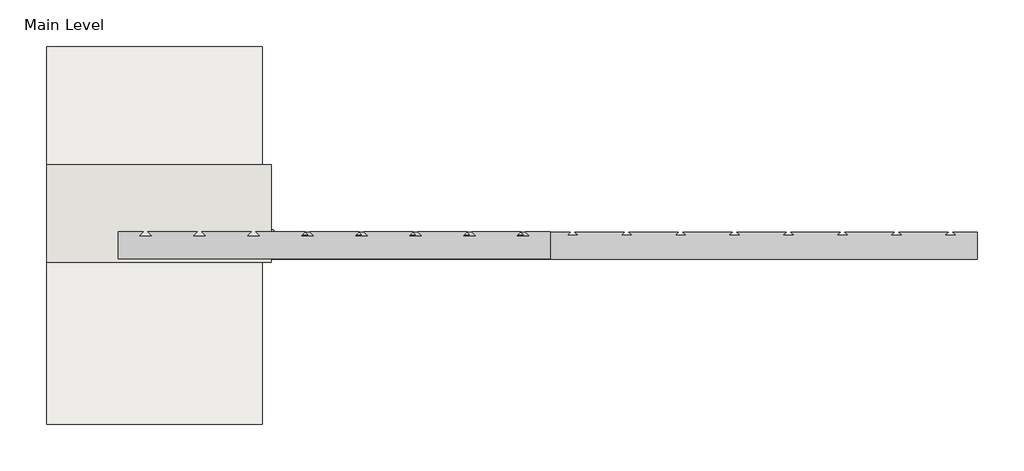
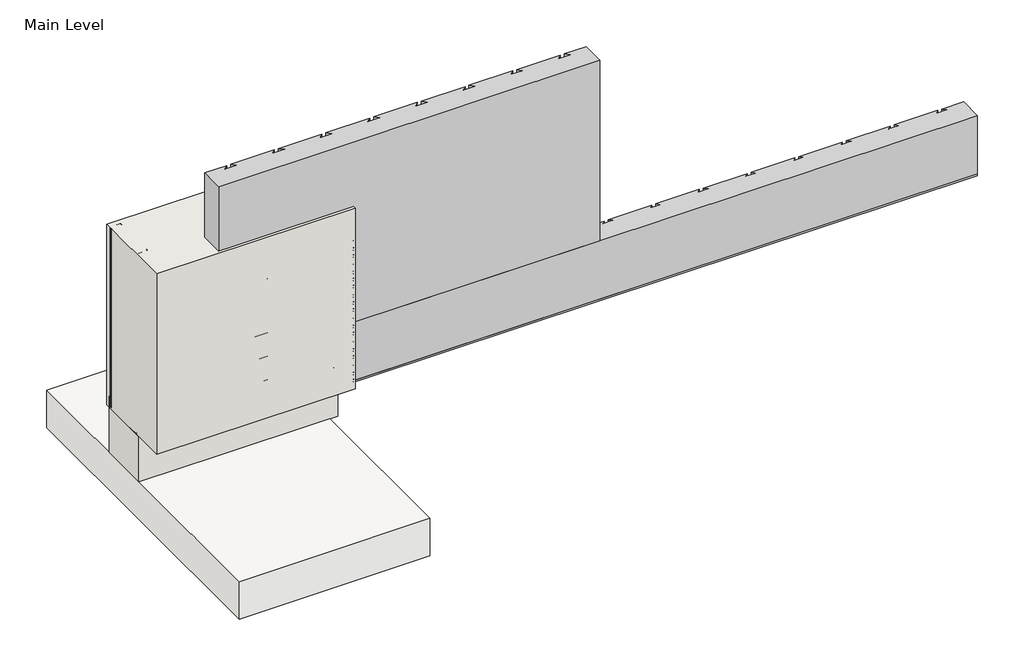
# One storey, incomplete: 20 proxies, 2 walls, 1 slab.
"""IFC4 building model written with IfcOpenShell, lengths in millimetres."""

from ifc_helpers import new_model, si_unit, frame, origin, origin_with_axes, place, context, project, spatial, polyline, outline, extrude, transform, mapped, element, save
from components import generic_models_31547c53, generic_models_0bbfdc8f, generic_models_1e1ad44f, generic_models_7dd17a53, generic_models_441de798, generic_models_9d0e7a2a, generic_models_a6b5edb7, generic_models_03ec6e0e, proxy_998bcb27, proxy_b027fc18, wood_blocking_45ac4bf3

model = new_model("IFC4")

# Units and contexts
model_context = context("Model", 3, world=origin())
ifc_project = project(units=[si_unit("LENGTHUNIT", "METRE", prefix="MILLI")], contexts=[model_context])

# Site, building, storey
site = spatial("IfcSite", under=ifc_project)
building = spatial("IfcBuilding", under=site)
storey = spatial("IfcBuildingStorey", under=building, Name="Main Level", Elevation=0.0)

# Proxies
placement = place(None, origin())
generic_models_shape = generic_models_31547c53(model_context)
element("IfcBuildingElementProxy", 1, Name="Durabond Generic Model Sealant Vent : Durabond Generic Model Sealant Vent", ObjectType="Durabond Generic Model Sealant Vent : Durabond Generic Model Sealant Vent", at=placement, inside=storey, context=model_context, shape_type="MappedRepresentation", body=[
    mapped(generic_models_shape, transform((26865.4101773, 546.8432813, 8.5594788), x_axis=(1.0, 0.0, 0.0), y_axis=(0.0, 0.08715574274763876, -0.9961946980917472), z_axis=(0.0, 0.9961946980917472, 0.08715574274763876))),
])
generic_models_2_shape = generic_models_0bbfdc8f(model_context)
generic_models_3_shape = generic_models_1e1ad44f(model_context)
generic_models_4_shape = generic_models_7dd17a53(model_context)
generic_models_5_shape = generic_models_441de798(model_context)
element("IfcBuildingElementProxy", 2, Name="CRAi Generic Model Mesh Piece Face Based : CRAi Generic Model Mesh Piece Face Based", ObjectType="CRAi Generic Model Mesh Piece Face Based : CRAi Generic Model Mesh Piece Face Based", at=placement, inside=storey, context=model_context, shape_type="MappedRepresentation", body=[
    mapped(generic_models_2_shape, transform((26933.6726773, 541.9066297, 261.6963215), x_axis=(-1.0, 0.0, 0.0), y_axis=(0.0, 0.0, -1.0), z_axis=(0.0, -1.0, 0.0))),
    mapped(generic_models_3_shape, transform((26933.6726773, 541.9066297, 261.6963215), x_axis=(-1.0, 0.0, 0.0), y_axis=(0.0, 0.0, -1.0), z_axis=(0.0, -1.0, 0.0))),
    mapped(generic_models_4_shape, transform((26933.6726773, 541.9066297, 261.6963215), x_axis=(-1.0, 0.0, 0.0), y_axis=(0.0, 0.0, -1.0), z_axis=(0.0, -1.0, 0.0))),
    mapped(generic_models_5_shape, transform((26933.6726773, 541.9066297, 261.6963215), x_axis=(-1.0, 0.0, 0.0), y_axis=(0.0, 0.0, -1.0), z_axis=(0.0, -1.0, 0.0))),
])
generic_models_6_shape = generic_models_9d0e7a2a(model_context)
element("IfcBuildingElementProxy", 3, Name="CRAi Generic Model Metal Stud Array : CRAi Generic Model Metal Stud Array", ObjectType="CRAi Generic Model Metal Stud Array : CRAi Generic Model Metal Stud Array", at=placement, inside=storey, context=model_context, shape_type="MappedRepresentation", body=[
    mapped(generic_models_6_shape, transform((26666.9726773, 726.0566297, 6.35), x_axis=(-1.0, 0.0, 0.0), y_axis=(0.0, -1.0, 0.0), z_axis=(0.0, 0.0, 1.0))),
])
generic_models_7_shape = generic_models_a6b5edb7(model_context)
element("IfcBuildingElementProxy", 4, Name="Durabond Generic Model Insulation Adhesive Flat : Durabond Generic Model Insulation Adhesive Flat", ObjectType="Durabond Generic Model Insulation Adhesive Flat : Durabond Generic Model Insulation Adhesive Flat", at=placement, inside=storey, context=model_context, shape_type="MappedRepresentation", body=[
    mapped(generic_models_7_shape, transform((26705.0726773, 627.6316297, 88.9), x_axis=(1.0, 0.0, 0.0), y_axis=(0.0, 1.0, 0.0), z_axis=(0.0, 0.0, 1.0))),
])
element("IfcBuildingElementProxy", 5, Name="Durabond Generic Model Insulation Adhesive Flat : Durabond Generic Model Insulation Adhesive Flat", ObjectType="Durabond Generic Model Insulation Adhesive Flat : Durabond Generic Model Insulation Adhesive Flat", at=placement, inside=storey, context=model_context, shape_type="MappedRepresentation", body=[
    mapped(generic_models_7_shape, transform((26781.2726773, 627.6316297, 88.9), x_axis=(1.0, 0.0, 0.0), y_axis=(0.0, 1.0, 0.0), z_axis=(0.0, 0.0, 1.0))),
])
element("IfcBuildingElementProxy", 6, Name="Durabond Generic Model Insulation Adhesive Flat : Durabond Generic Model Insulation Adhesive Flat", ObjectType="Durabond Generic Model Insulation Adhesive Flat : Durabond Generic Model Insulation Adhesive Flat", at=placement, inside=storey, context=model_context, shape_type="MappedRepresentation", body=[
    mapped(generic_models_7_shape, transform((26857.4726773, 627.6316297, 88.9), x_axis=(1.0, 0.0, 0.0), y_axis=(0.0, 1.0, 0.0), z_axis=(0.0, 0.0, 1.0))),
])
element("IfcBuildingElementProxy", 7, Name="Durabond Generic Model Insulation Adhesive Flat : Durabond Generic Model Insulation Adhesive Flat", ObjectType="Durabond Generic Model Insulation Adhesive Flat : Durabond Generic Model Insulation Adhesive Flat", at=placement, inside=storey, context=model_context, shape_type="MappedRepresentation", body=[
    mapped(generic_models_7_shape, transform((26933.6726773, 627.6316297, 88.9), x_axis=(1.0, 0.0, 0.0), y_axis=(0.0, 1.0, 0.0), z_axis=(0.0, 0.0, 1.0))),
])
element("IfcBuildingElementProxy", 8, Name="Durabond Generic Model Insulation Adhesive Flat : Durabond Generic Model Insulation Adhesive Flat", ObjectType="Durabond Generic Model Insulation Adhesive Flat : Durabond Generic Model Insulation Adhesive Flat", at=placement, inside=storey, context=model_context, shape_type="MappedRepresentation", body=[
    mapped(generic_models_7_shape, transform((27009.8726773, 627.6316297, 88.9), x_axis=(1.0, 0.0, 0.0), y_axis=(0.0, 1.0, 0.0), z_axis=(0.0, 0.0, 1.0))),
])
element("IfcBuildingElementProxy", 9, Name="Durabond Generic Model Insulation Adhesive Flat : Durabond Generic Model Insulation Adhesive Flat", ObjectType="Durabond Generic Model Insulation Adhesive Flat : Durabond Generic Model Insulation Adhesive Flat", at=placement, inside=storey, context=model_context, shape_type="MappedRepresentation", body=[
    mapped(generic_models_7_shape, transform((27086.0726773, 627.6316297, 88.9), x_axis=(1.0, 0.0, 0.0), y_axis=(0.0, 1.0, 0.0), z_axis=(0.0, 0.0, 1.0))),
])
generic_models_8_shape = generic_models_03ec6e0e(model_context)
element("IfcBuildingElementProxy", 10, Name="CRAi Generic Model Drywall Screw : CRAi Generic Model Drywall Screw", ObjectType="CRAi Generic Model Drywall Screw : CRAi Generic Model Drywall Screw", at=placement, inside=storey, context=model_context, shape_type="MappedRepresentation", body=[
    mapped(generic_models_8_shape, transform((26482.8226773, 633.9816297, 25.4), x_axis=(1.0, 0.0, 0.0), y_axis=(0.0, 0.0, 1.0), z_axis=(0.0, -1.0, 0.0))),
])
element("IfcBuildingElementProxy", 11, Name="CRAi Generic Model Drywall Screw : CRAi Generic Model Drywall Screw", ObjectType="CRAi Generic Model Drywall Screw : CRAi Generic Model Drywall Screw", at=placement, inside=storey, context=model_context, shape_type="MappedRepresentation", body=[
    mapped(generic_models_8_shape, transform((26482.8226773, 633.9816297, 215.9), x_axis=(1.0, 0.0, 0.0), y_axis=(0.0, 0.0, 1.0), z_axis=(0.0, -1.0, 0.0))),
])
element("IfcBuildingElementProxy", 12, Name="CRAi Generic Model Drywall Screw : CRAi Generic Model Drywall Screw", ObjectType="CRAi Generic Model Drywall Screw : CRAi Generic Model Drywall Screw", at=placement, inside=storey, context=model_context, shape_type="MappedRepresentation", body=[
    mapped(generic_models_8_shape, transform((26482.8226773, 633.9816297, 406.4), x_axis=(1.0, 0.0, 0.0), y_axis=(0.0, 0.0, 1.0), z_axis=(0.0, -1.0, 0.0))),
])
element("IfcBuildingElementProxy", 13, Name="CRAi Generic Model Drywall Screw : CRAi Generic Model Drywall Screw", ObjectType="CRAi Generic Model Drywall Screw : CRAi Generic Model Drywall Screw", at=placement, inside=storey, context=model_context, shape_type="MappedRepresentation", body=[
    mapped(generic_models_8_shape, transform((26482.8226773, 633.9816297, 596.9), x_axis=(1.0, 0.0, 0.0), y_axis=(0.0, 0.0, 1.0), z_axis=(0.0, -1.0, 0.0))),
])
element("IfcBuildingElementProxy", 14, Name="CRAi Generic Model Drywall Screw : CRAi Generic Model Drywall Screw", ObjectType="CRAi Generic Model Drywall Screw : CRAi Generic Model Drywall Screw", at=placement, inside=storey, context=model_context, shape_type="MappedRepresentation", body=[
    mapped(generic_models_8_shape, transform((26851.1226773, 633.9816297, 25.4), x_axis=(1.0, 0.0, 0.0), y_axis=(0.0, 0.0, 1.0), z_axis=(0.0, -1.0, 0.0))),
])
element("IfcBuildingElementProxy", 15, Name="CRAi Generic Model Drywall Screw : CRAi Generic Model Drywall Screw", ObjectType="CRAi Generic Model Drywall Screw : CRAi Generic Model Drywall Screw", at=placement, inside=storey, context=model_context, shape_type="MappedRepresentation", body=[
    mapped(generic_models_8_shape, transform((26851.1226773, 633.9816297, 215.9), x_axis=(1.0, 0.0, 0.0), y_axis=(0.0, 0.0, 1.0), z_axis=(0.0, -1.0, 0.0))),
])
element("IfcBuildingElementProxy", 16, Name="CRAi Generic Model Drywall Screw : CRAi Generic Model Drywall Screw", ObjectType="CRAi Generic Model Drywall Screw : CRAi Generic Model Drywall Screw", at=placement, inside=storey, context=model_context, shape_type="MappedRepresentation", body=[
    mapped(generic_models_8_shape, transform((26851.1226773, 633.9816297, 406.4), x_axis=(1.0, 0.0, 0.0), y_axis=(0.0, 0.0, 1.0), z_axis=(0.0, -1.0, 0.0))),
])
element("IfcBuildingElementProxy", 17, Name="CRAi Generic Model Drywall Screw : CRAi Generic Model Drywall Screw", ObjectType="CRAi Generic Model Drywall Screw : CRAi Generic Model Drywall Screw", at=placement, inside=storey, context=model_context, shape_type="MappedRepresentation", body=[
    mapped(generic_models_8_shape, transform((26851.1226773, 633.9816297, 596.9), x_axis=(1.0, 0.0, 0.0), y_axis=(0.0, 0.0, 1.0), z_axis=(0.0, -1.0, 0.0))),
])
proxy_shape = proxy_998bcb27(model_context)
element("IfcBuildingElementProxy", 18, Name="Durabond Generic Model Flexlite Insulation Board : 3\"", ObjectType="Durabond Generic Model Flexlite Insulation Board : 3\"", at=placement, inside=storey, context=model_context, shape_type="MappedRepresentation", body=[
    mapped(proxy_shape, transform((27276.5726773, 624.4566297, 523.392643), x_axis=(1.0, 0.0, 0.0), y_axis=(0.0, 0.0, 1.0), z_axis=(0.0, -1.0, 0.0))),
])
proxy_2_shape = proxy_b027fc18(model_context)
element("IfcBuildingElementProxy", 19, Name="Durabond Generic Model Flexlite Vent Board : 3\"", ObjectType="Durabond Generic Model Flexlite Vent Board : 3\"", at=placement, inside=storey, context=model_context, shape_type="MappedRepresentation", body=[
    mapped(proxy_2_shape, transform((27873.4726773, 624.4566297, 116.992643), x_axis=(1.0, 0.0, 0.0), y_axis=(0.0, 0.0, 1.0), z_axis=(0.0, -1.0, 0.0))),
])
wood_blocking_shape = wood_blocking_45ac4bf3(model_context)
element("IfcBuildingElementProxy", 20, Name="CRAi Generic Model Line Based Metal Framing Track : Wood Blocking", ObjectType="CRAi Generic Model Line Based Metal Framing Track : Wood Blocking", at=placement, inside=storey, context=model_context, shape_type="MappedRepresentation", body=[
    mapped(wood_blocking_shape, transform((26463.7726773, 649.8566297, 0.0), x_axis=(1.0, 0.0, 0.0), y_axis=(0.0, 1.0, 0.0), z_axis=(0.0, 0.0, 1.0))),
])

# Slab
element("IfcSlab", 21, ObjectType="CRAi Concrete Floor - 5\"", at=placement, inside=storey, context=model_context, shape_type="SweptSolid", body=[
    extrude(outline(polyline([(27073.3726773, 81.5316297), (26463.7726773, 81.5316297), (26463.7726773, 1148.3316297), (27073.3726773, 1148.3316297), (27073.3726773, 81.5316297)])), frame((0.0, 0.0, -279.4), z_axis=(0.0, 0.0, 1.0), x_axis=(1.0, 0.0, 0.0)), (0.0, 0.0, 1.0), 127.0),
])

# Walls
element("IfcWall", 22, ObjectType="189mm (7.5”) EIFS Field Applied on Mtl. Stud Layer - 50mm Grooved Insulation Board Metal Stud Wall (AirStop)", at=placement, inside=storey, context=model_context, shape_type="SweptSolid", body=[
    extrude(outline(polyline([(27098.7726773, 538.7316297), (26463.7726773, 538.7316297), (26463.7726773, 814.9566297), (27098.7726773, 814.9566297), (27098.7726773, 538.7316297)])), origin_with_axes(), (0.0, 0.0, 1.0), 609.6),
])
element("IfcWall", 23, ObjectType="Durabond 6\" Concrete Wall", at=placement, inside=storey, context=model_context, shape_type="SweptSolid", body=[
    extrude(outline(polyline([(27098.7726773, 637.1566297), (26463.7726773, 637.1566297), (26463.7726773, 802.2566297), (27098.7726773, 802.2566297), (27098.7726773, 637.1566297)])), frame((0.0, 0.0, -152.4), z_axis=(0.0, 0.0, 1.0), x_axis=(1.0, 0.0, 0.0)), (0.0, 0.0, 1.0), 152.4),
])

save(model, "model.ifc")
